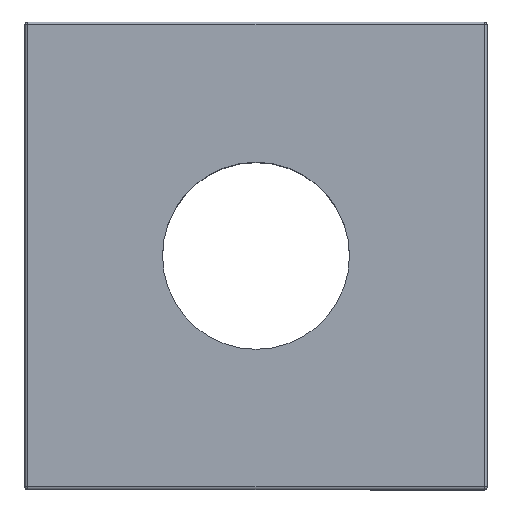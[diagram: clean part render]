
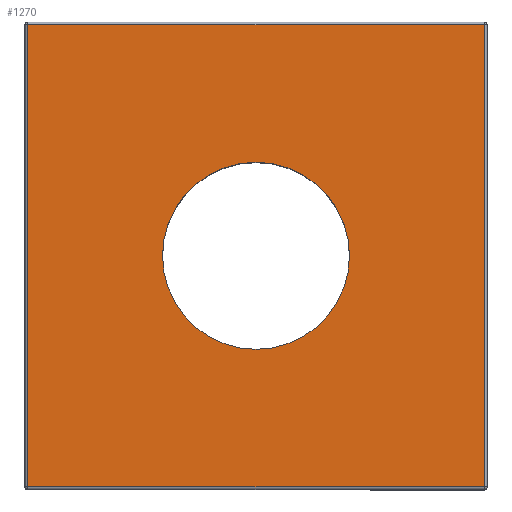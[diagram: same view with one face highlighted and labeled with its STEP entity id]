
A CAD part, top view. The second image highlights one B-rep face of the part: STEP entity #1270.
In plain terms, the highlighted planar face has unit normal (0, 0, 1).
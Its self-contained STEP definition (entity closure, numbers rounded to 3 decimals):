
#187 = LINE ( 'NONE', #2316, #3606 ) ;
#507 = VERTEX_POINT ( 'NONE', #1828 ) ;
#730 = EDGE_LOOP ( 'NONE', ( #1602, #4965 ) ) ;
#834 = VERTEX_POINT ( 'NONE', #3929 ) ;
#902 = AXIS2_PLACEMENT_3D ( 'NONE', #3827, #5780, #4879 ) ;
#950 = EDGE_CURVE ( 'NONE', #3967, #1303, #2939, .T. ) ;
#1270 = ADVANCED_FACE ( 'NONE', ( #2338, #3661 ), #3914, .F. ) ;
#1303 = VERTEX_POINT ( 'NONE', #2954 ) ;
#1531 = LINE ( 'NONE', #5331, #4852 ) ;
#1584 = CARTESIAN_POINT ( 'NONE',  ( 2291.542, -635.856, 0. ) ) ;
#1602 = ORIENTED_EDGE ( 'NONE', *, *, #4863, .F. ) ;
#1828 = CARTESIAN_POINT ( 'NONE',  ( 2274.742, -635.856, 0. ) ) ;
#1891 = EDGE_CURVE ( 'NONE', #4794, #3967, #1531, .T. ) ;
#1949 = ORIENTED_EDGE ( 'NONE', *, *, #950, .F. ) ;
#2316 = CARTESIAN_POINT ( 'NONE',  ( 2262.642, -635.856, 0. ) ) ;
#2322 = DIRECTION ( 'NONE',  ( -1., 0., 0. ) ) ;
#2338 = FACE_OUTER_BOUND ( 'NONE', #5743, .T. ) ;
#2381 = AXIS2_PLACEMENT_3D ( 'NONE', #2867, #4749, #5648 ) ;
#2618 = CIRCLE ( 'NONE', #2381, 8.4 ) ;
#2725 = EDGE_CURVE ( 'NONE', #507, #2887, #2618, .T. ) ;
#2767 = CARTESIAN_POINT ( 'NONE',  ( 2283.142, -635.856, 0. ) ) ;
#2859 = CARTESIAN_POINT ( 'NONE',  ( 2303.642, -615.106, 0. ) ) ;
#2867 = CARTESIAN_POINT ( 'NONE',  ( 2283.142, -635.856, 0. ) ) ;
#2887 = VERTEX_POINT ( 'NONE', #1584 ) ;
#2939 = LINE ( 'NONE', #4251, #3587 ) ;
#2954 = CARTESIAN_POINT ( 'NONE',  ( 2262.642, -656.606, 0. ) ) ;
#2978 = LINE ( 'NONE', #3364, #4536 ) ;
#3138 = DIRECTION ( 'NONE',  ( 0., -1., 0. ) ) ;
#3319 = DIRECTION ( 'NONE',  ( 1., 0., 0. ) ) ;
#3364 = CARTESIAN_POINT ( 'NONE',  ( 2283.142, -615.106, 0. ) ) ;
#3391 = EDGE_CURVE ( 'NONE', #834, #4794, #2978, .T. ) ;
#3587 = VECTOR ( 'NONE', #2322, 1000. ) ;
#3606 = VECTOR ( 'NONE', #5662, 1000. ) ;
#3623 = ORIENTED_EDGE ( 'NONE', *, *, #5926, .F. ) ;
#3661 = FACE_BOUND ( 'NONE', #730, .T. ) ;
#3728 = ORIENTED_EDGE ( 'NONE', *, *, #1891, .F. ) ;
#3827 = CARTESIAN_POINT ( 'NONE',  ( 2283.142, -635.856, 0. ) ) ;
#3914 = PLANE ( 'NONE',  #902 ) ;
#3929 = CARTESIAN_POINT ( 'NONE',  ( 2262.642, -615.106, 0. ) ) ;
#3967 = VERTEX_POINT ( 'NONE', #4786 ) ;
#4251 = CARTESIAN_POINT ( 'NONE',  ( 2283.142, -656.606, 0. ) ) ;
#4536 = VECTOR ( 'NONE', #3319, 1000. ) ;
#4673 = CIRCLE ( 'NONE', #6075, 8.4 ) ;
#4749 = DIRECTION ( 'NONE',  ( 0., 0., 1. ) ) ;
#4786 = CARTESIAN_POINT ( 'NONE',  ( 2303.642, -656.606, 0. ) ) ;
#4794 = VERTEX_POINT ( 'NONE', #2859 ) ;
#4852 = VECTOR ( 'NONE', #3138, 1000. ) ;
#4863 = EDGE_CURVE ( 'NONE', #2887, #507, #4673, .T. ) ;
#4879 = DIRECTION ( 'NONE',  ( -1., 0., 0. ) ) ;
#4965 = ORIENTED_EDGE ( 'NONE', *, *, #2725, .F. ) ;
#5331 = CARTESIAN_POINT ( 'NONE',  ( 2303.642, -635.856, 0. ) ) ;
#5599 = DIRECTION ( 'NONE',  ( 0., 0., 1. ) ) ;
#5637 = ORIENTED_EDGE ( 'NONE', *, *, #3391, .F. ) ;
#5648 = DIRECTION ( 'NONE',  ( 1., 0., 0. ) ) ;
#5662 = DIRECTION ( 'NONE',  ( 0., 1., 0. ) ) ;
#5743 = EDGE_LOOP ( 'NONE', ( #3728, #5637, #3623, #1949 ) ) ;
#5780 = DIRECTION ( 'NONE',  ( 0., 0., -1. ) ) ;
#5926 = EDGE_CURVE ( 'NONE', #1303, #834, #187, .T. ) ;
#6075 = AXIS2_PLACEMENT_3D ( 'NONE', #2767, #5599, #6077 ) ;
#6077 = DIRECTION ( 'NONE',  ( 1., 0., 0. ) ) ;
